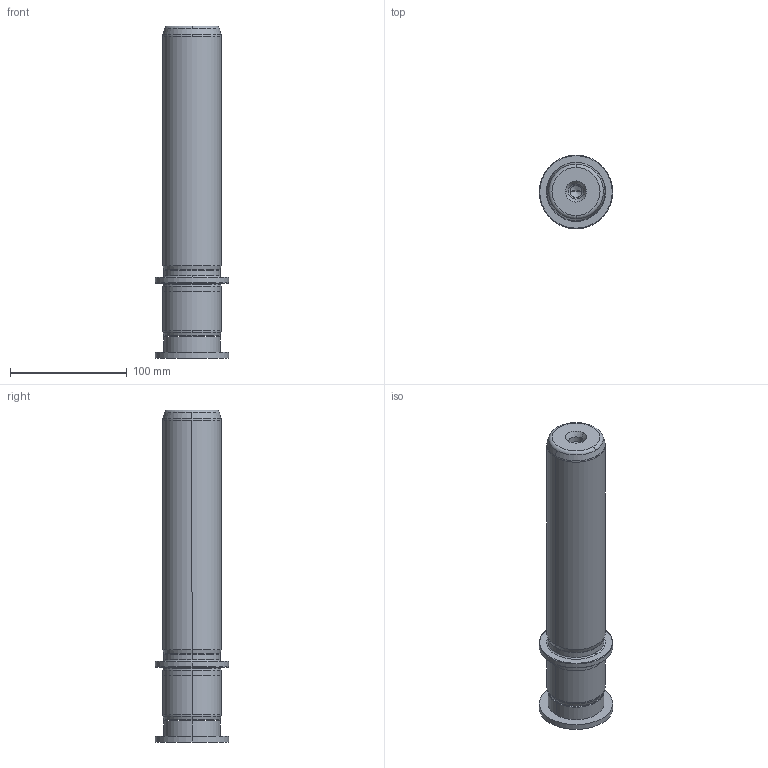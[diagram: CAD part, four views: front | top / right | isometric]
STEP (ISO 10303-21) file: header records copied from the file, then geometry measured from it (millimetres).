
FILE_DESCRIPTION((''),'2;1');
FILE_NAME('P22_050_220.stp','2009-11-02T10:49:39',(''),(''),'Mechanical Desktop 2009','Mechanical Desktop 2009',', , ');
FILE_SCHEMA(('CONFIG_CONTROL_DESIGN'));
Length unit declared in the file: millimetre
Products named in the file (2): Product; blmdl1
Assembly tree (1 placements, depth 2):
  Product
    blmdl1
Bounding box: 63 x 63 x 284 mm (x, y, z)
Volume: 555732.6 mm3; surface area: 62274.1 mm2
Topology: 3 solids, 3 shells, 99 faces, 237 edges, 149 vertices
Faces by surface type: cylinder 32, cone 28, plane 19, torus 10, bspline 10
Entity records: 3419 total; most frequent: CARTESIAN_POINT 923, DIRECTION 570, ORIENTED_EDGE 466, AXIS2_PLACEMENT_3D 246, EDGE_CURVE 233, CIRCLE 155, VERTEX_POINT 149, EDGE_LOOP 110
